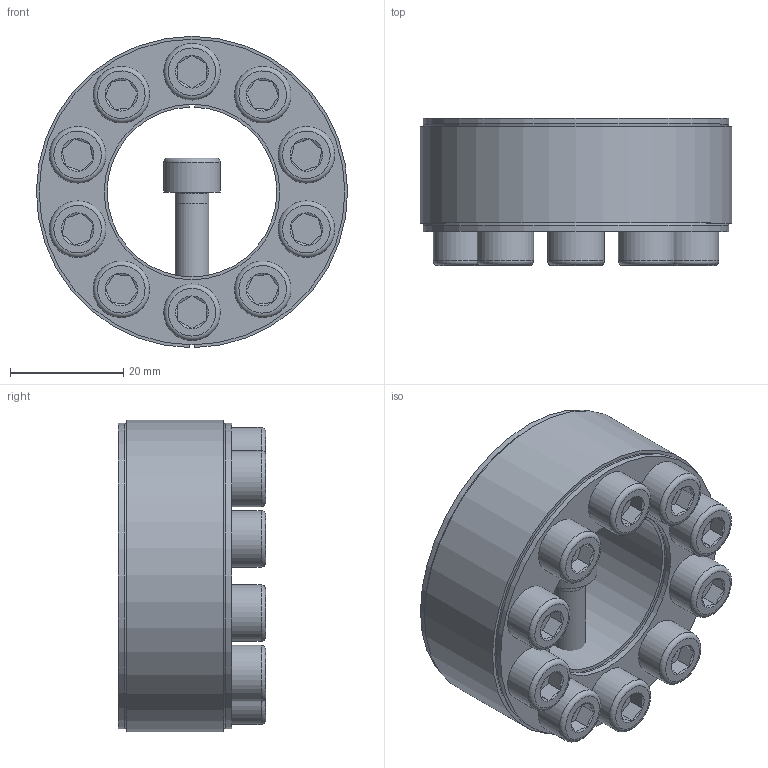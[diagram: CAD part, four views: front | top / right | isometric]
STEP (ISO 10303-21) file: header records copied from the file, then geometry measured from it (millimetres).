
FILE_DESCRIPTION( ( 'Unknown' ), '1' );
FILE_NAME( 'C:/Dokumente und Einstellungen/Sven/Desktop/homepage/cad - homepage/KBS40/KBS 40 - 30 x 55.stp', 'Unknown', ( 'Unknown' ), ( 'Unknown' ), 'XStep 1.0', 'Unknown', ' ' );
FILE_SCHEMA( ( 'automotive_design' ) );
Length unit declared in the file: millimetre
Products named in the file (12): Assem1; KBS 40 30x55; ISO 4762 M6x18; ISO 4762 M6x18-oa0; ISO 4762 M6x18-oa1; ISO 4762 M6x18-oa2; ISO 4762 M6x18-oa3; ISO 4762 M6x18-oa4; ISO 4762 M6x18-oa5; ISO 4762 M6x18-oa6; ISO 4762 M6x18-oa7; ISO 4762 M6x18-oa8
Bounding box: 55 x 26 x 55 mm (x, y, z)
Volume: 72704.8 mm3; surface area: 38742.2 mm2
Topology: 22 solids, 22 shells, 580 faces, 1080 edges, 624 vertices
Faces by surface type: plane 280, cone 148, cylinder 112, torus 40
Full cylindrical faces by diameter (mm): 5 x20, 6 x60, 10 x20, 31 x4, 54 x4
Entity records: 7333 total; most frequent: CARTESIAN_POINT 1482, DIRECTION 1184, ORIENTED_EDGE 860, AXIS2_PLACEMENT_3D 512, EDGE_LOOP 440, EDGE_CURVE 430, FACE_OUTER_BOUND 364, ADVANCED_FACE 290
